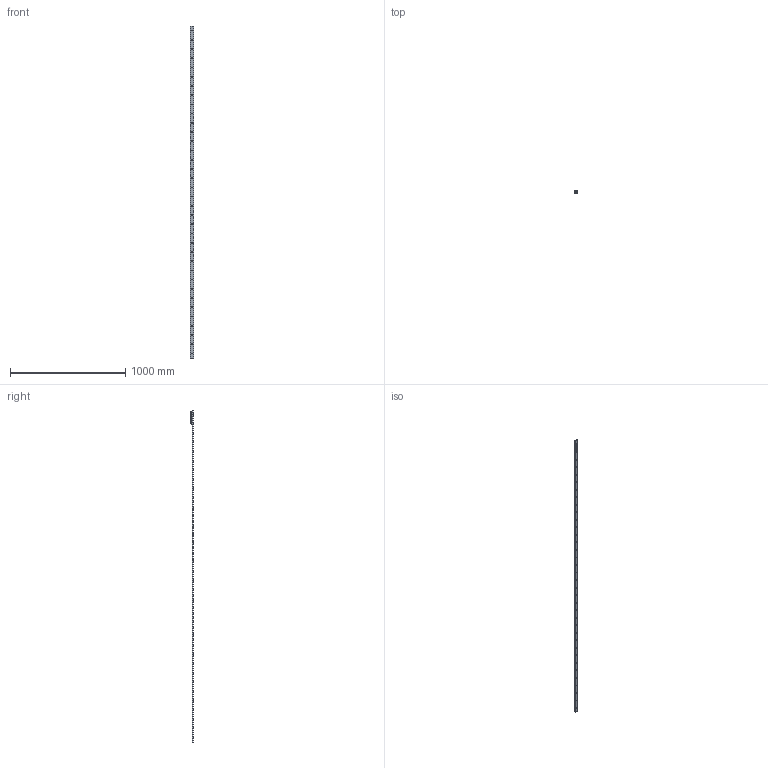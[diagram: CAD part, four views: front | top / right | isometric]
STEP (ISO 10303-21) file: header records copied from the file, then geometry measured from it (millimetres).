
FILE_DESCRIPTION( ( 'STEP AP214' ), '1' );
FILE_NAME( 'p:/temp/worker_23/temp/exporttempdir_484_36_UcH08/format_1/TGV-02880_1_RV28G-3.stp', '2020-11-20T16:42:50', ( 'License CC BY-ND 4.0' ), ( 'CADENAS' ), ' ', 'PARTsolutions', ' ' );
FILE_SCHEMA( ( 'AUTOMOTIVE_DESIGN { 1 0 10303 214 1 1 1 1 }' ) );
Length unit declared in the file: millimetre
Products named in the file (6): TGV-02880/1/RV28G-3; _TGV28-2880-(3-1); _RV28G-3-slider; _RGNV28R; _RGAV28R; _WR28G-01
Assembly tree (7 placements, depth 2):
  TGV-02880/1/RV28G-3
    _TGV28-2880-(3-1)
    _RV28G-3-slider
    _RGNV28R  x2
    _RGAV28R
    _WR28G-01  x2
Bounding box: 28 x 24 x 2880 mm (x, y, z)
Volume: 452302.9 mm3; surface area: 290850.5 mm2
Topology: 7 solids, 7 shells, 1084 faces, 2825 edges, 1837 vertices
Faces by surface type: plane 657, cylinder 316, cone 76, bspline 26, torus 9
Full cylindrical faces by diameter (mm): 1.27 x4, 2 x2, 2.5 x6, 4 x4, 4.134 x4, 4.2 x3, 5 x3, 5.5 x3, 5.75 x36, 7 x5, 7.5 x1, 8 x6, 10.8 x3, 17 x3, 20.75 x6
Entity records: 26571 total; most frequent: CARTESIAN_POINT 4163, DIRECTION 3560, ORIENTED_EDGE 3210, EDGE_CURVE 1605, AXIS2_PLACEMENT_3D 1385, VERTEX_POINT 1137, EDGE_LOOP 1007, LINE 790
